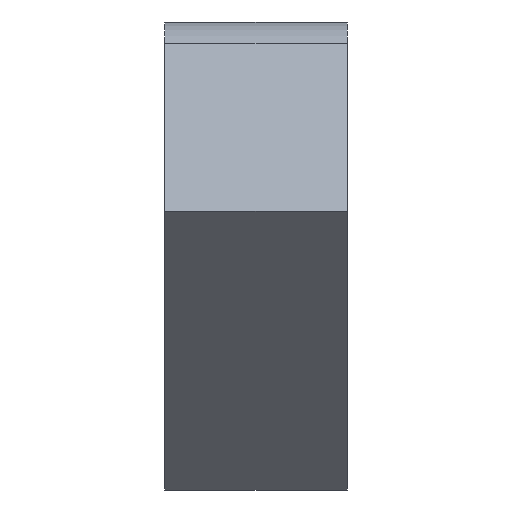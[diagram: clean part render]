
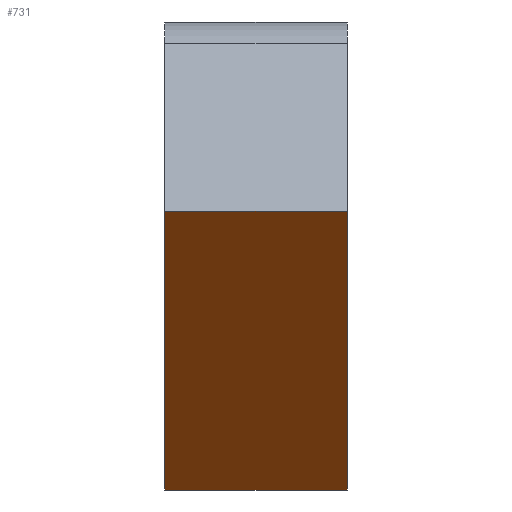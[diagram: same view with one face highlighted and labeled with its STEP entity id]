
A CAD part, front view. The second image highlights one B-rep face of the part: STEP entity #731.
In plain terms, the highlighted planar face has unit normal (0, -0.707, -0.707).
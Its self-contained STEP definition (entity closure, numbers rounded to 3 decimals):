
#55=PLANE('',#822);
#90=FACE_OUTER_BOUND('',#127,.T.);
#127=EDGE_LOOP('',(#622,#623,#624,#625));
#182=LINE('',#1098,#245);
#185=LINE('',#1108,#248);
#214=LINE('',#1221,#277);
#215=LINE('',#1223,#278);
#245=VECTOR('',#879,10.);
#248=VECTOR('',#890,10.);
#277=VECTOR('',#1017,10.);
#278=VECTOR('',#1020,10.);
#344=VERTEX_POINT('',#1095);
#345=VERTEX_POINT('',#1097);
#348=VERTEX_POINT('',#1107);
#383=VERTEX_POINT('',#1219);
#416=EDGE_CURVE('',#344,#345,#182,.T.);
#421=EDGE_CURVE('',#345,#348,#185,.T.);
#478=EDGE_CURVE('',#344,#383,#214,.T.);
#479=EDGE_CURVE('',#348,#383,#215,.T.);
#622=ORIENTED_EDGE('',*,*,#478,.T.);
#623=ORIENTED_EDGE('',*,*,#479,.F.);
#624=ORIENTED_EDGE('',*,*,#421,.F.);
#625=ORIENTED_EDGE('',*,*,#416,.F.);
#731=ADVANCED_FACE('',(#90),#55,.T.);
#822=AXIS2_PLACEMENT_3D('',#1222,#1018,#1019);
#879=DIRECTION('',(0.,-0.707,0.707));
#890=DIRECTION('',(1.,0.,0.));
#1017=DIRECTION('',(1.,0.,0.));
#1018=DIRECTION('center_axis',(0.,-0.707,-0.707));
#1019=DIRECTION('ref_axis',(0.,0.707,-0.707));
#1020=DIRECTION('',(0.,0.707,-0.707));
#1095=CARTESIAN_POINT('',(-12.5,2.121,-36.062));
#1097=CARTESIAN_POINT('',(-12.5,-36.062,2.121));
#1098=CARTESIAN_POINT('',(-12.5,-36.062,2.121));
#1107=CARTESIAN_POINT('',(12.5,-36.062,2.121));
#1108=CARTESIAN_POINT('',(0.,-36.062,2.121));
#1219=CARTESIAN_POINT('',(12.5,2.121,-36.062));
#1221=CARTESIAN_POINT('',(0.,2.121,-36.062));
#1222=CARTESIAN_POINT('Origin',(0.,-36.062,2.121));
#1223=CARTESIAN_POINT('',(12.5,-36.062,2.121));
